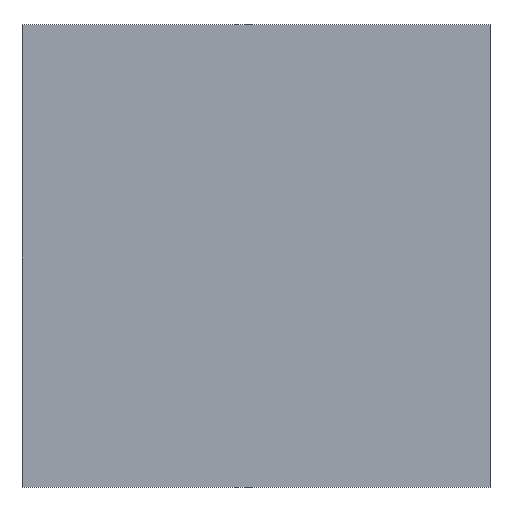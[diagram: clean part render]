
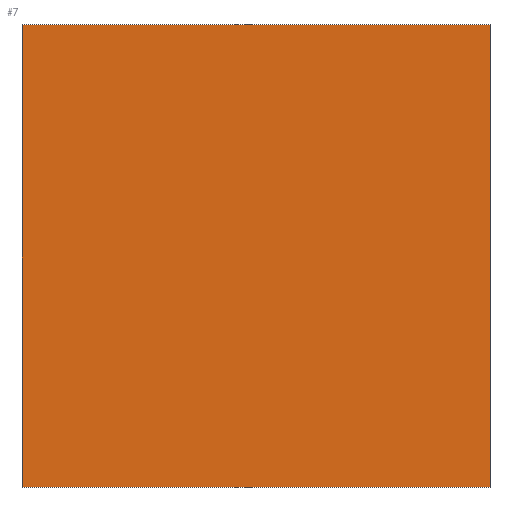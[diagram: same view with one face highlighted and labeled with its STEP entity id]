
A CAD part, top view. The second image highlights one B-rep face of the part: STEP entity #7.
In plain terms, the highlighted planar face has unit normal (0, 0, 1).
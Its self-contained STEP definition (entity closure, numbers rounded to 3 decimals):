
#7 = ADVANCED_FACE ( 'NONE', ( #132 ), #110, .F. ) ;
#13 = EDGE_CURVE ( 'NONE', #141, #175, #122, .T. ) ;
#15 = CARTESIAN_POINT ( 'NONE',  ( 920., 0., 4. ) ) ;
#18 = CARTESIAN_POINT ( 'NONE',  ( 0., 910., 4. ) ) ;
#37 = DIRECTION ( 'NONE',  ( 0., 1., 0. ) ) ;
#54 = AXIS2_PLACEMENT_3D ( 'NONE', #107, #95, #94 ) ;
#64 = DIRECTION ( 'NONE',  ( -1., 0., 0. ) ) ;
#86 = VECTOR ( 'NONE', #37, 1000. ) ;
#87 = LINE ( 'NONE', #217, #101 ) ;
#89 = CARTESIAN_POINT ( 'NONE',  ( 0., 910., 4. ) ) ;
#90 = LINE ( 'NONE', #225, #86 ) ;
#92 = VECTOR ( 'NONE', #234, 1000. ) ;
#94 = DIRECTION ( 'NONE',  ( -1., 0., 0. ) ) ;
#95 = DIRECTION ( 'NONE',  ( 0., 0., -1. ) ) ;
#97 = LINE ( 'NONE', #235, #92 ) ;
#101 = VECTOR ( 'NONE', #196, 1000. ) ;
#103 = CARTESIAN_POINT ( 'NONE',  ( 920., 910., 4. ) ) ;
#107 = CARTESIAN_POINT ( 'NONE',  ( 0., 0., 4. ) ) ;
#110 = PLANE ( 'NONE',  #54 ) ;
#113 = VECTOR ( 'NONE', #64, 1000. ) ;
#122 = LINE ( 'NONE', #89, #113 ) ;
#132 = FACE_OUTER_BOUND ( 'NONE', #208, .T. ) ;
#141 = VERTEX_POINT ( 'NONE', #103 ) ;
#144 = ORIENTED_EDGE ( 'NONE', *, *, #13, .T. ) ;
#148 = ORIENTED_EDGE ( 'NONE', *, *, #186, .T. ) ;
#157 = VERTEX_POINT ( 'NONE', #15 ) ;
#169 = ORIENTED_EDGE ( 'NONE', *, *, #230, .T. ) ;
#175 = VERTEX_POINT ( 'NONE', #18 ) ;
#186 = EDGE_CURVE ( 'NONE', #216, #157, #97, .T. ) ;
#190 = ORIENTED_EDGE ( 'NONE', *, *, #233, .T. ) ;
#196 = DIRECTION ( 'NONE',  ( 0., -1., 0. ) ) ;
#208 = EDGE_LOOP ( 'NONE', ( #190, #148, #169, #144 ) ) ;
#216 = VERTEX_POINT ( 'NONE', #229 ) ;
#217 = CARTESIAN_POINT ( 'NONE',  ( 0., 0., 4. ) ) ;
#225 = CARTESIAN_POINT ( 'NONE',  ( 920., 0., 4. ) ) ;
#229 = CARTESIAN_POINT ( 'NONE',  ( 0., 0., 4. ) ) ;
#230 = EDGE_CURVE ( 'NONE', #157, #141, #90, .T. ) ;
#233 = EDGE_CURVE ( 'NONE', #175, #216, #87, .T. ) ;
#234 = DIRECTION ( 'NONE',  ( 1., 0., 0. ) ) ;
#235 = CARTESIAN_POINT ( 'NONE',  ( 0., 0., 4. ) ) ;
